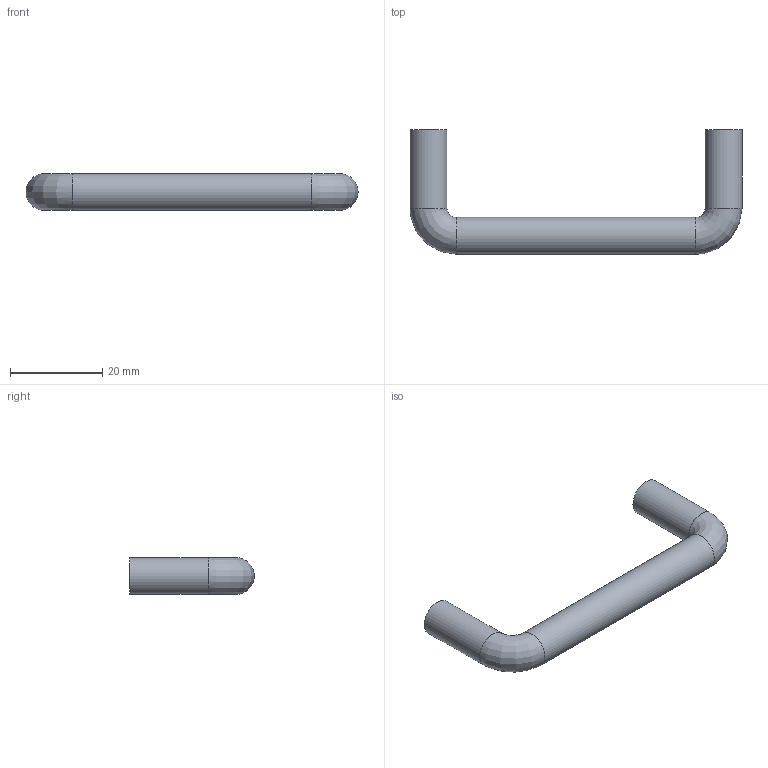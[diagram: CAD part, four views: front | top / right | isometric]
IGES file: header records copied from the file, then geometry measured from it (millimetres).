
Start section: Data from Parasolid IGES Translator 15.0.47, Copyright(c) 2006 Siemens P LM Software. All Rights Reserved.
Global section: file name: 9070096.igs; native system:  By UGS Corp.; preprocessor: XPlus GENERIC/IGES 3.0; author: Noname; organization: Noname; date: 20140122.155359; units: millimetre
Bounding box: 72 x 27 x 8 mm (x, y, z)
Surface area: 2987 mm2 (no closed solid volume)
Topology: 0 solids, 0 shells, 11 faces, 42 edges, 38 vertices
Faces by surface type: revolution 7, extrusion 4
